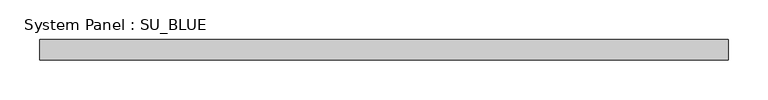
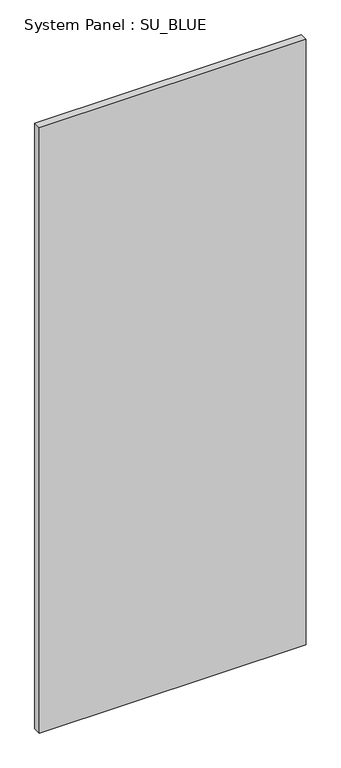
"""IFC4 building model written with IfcOpenShell, lengths in millimetres: plate geometry, System Panel : SU_BLUE."""

from ifc_helpers import new_model, si_unit, origin, origin_with_axes, place, context, project, spatial, polyline, outline, extrude, source, transform, mapped, element, save


def system_panel_su_blue_02b3fa8e(model_context):
    return source(origin(), model_context, "Body", "SweptSolid", [
        extrude(outline(polyline([(431.2346078, 19.05), (-431.2346078, 19.05), (-431.2346078, 44.45), (431.2346078, 44.45), (431.2346078, 19.05)])), origin_with_axes(), (0.0, 0.0, 1.0), 2070.1),
    ])


if __name__ == "__main__":
    model = new_model("IFC4")
    model_context = context("Model", 3, world=origin())
    ifc_project = project(units=[si_unit("LENGTHUNIT", "METRE", prefix="MILLI")], contexts=[model_context])
    site = spatial("IfcSite", under=ifc_project)
    building = spatial("IfcBuilding", under=site)
    placement = place(None, origin())
    system_panel_su_blue_shape = system_panel_su_blue_02b3fa8e(model_context)
    element("IfcPlate", 1, ObjectType="System Panel : SU_BLUE", at=placement, inside=building, context=model_context, shape_type="MappedRepresentation", body=[
        mapped(system_panel_su_blue_shape, transform((0.0, 0.0, 0.0), x_axis=(1.0, 0.0, 0.0), y_axis=(0.0, 1.0, 0.0), z_axis=(0.0, 0.0, 1.0))),
    ])
    save(model, "model.ifc")
